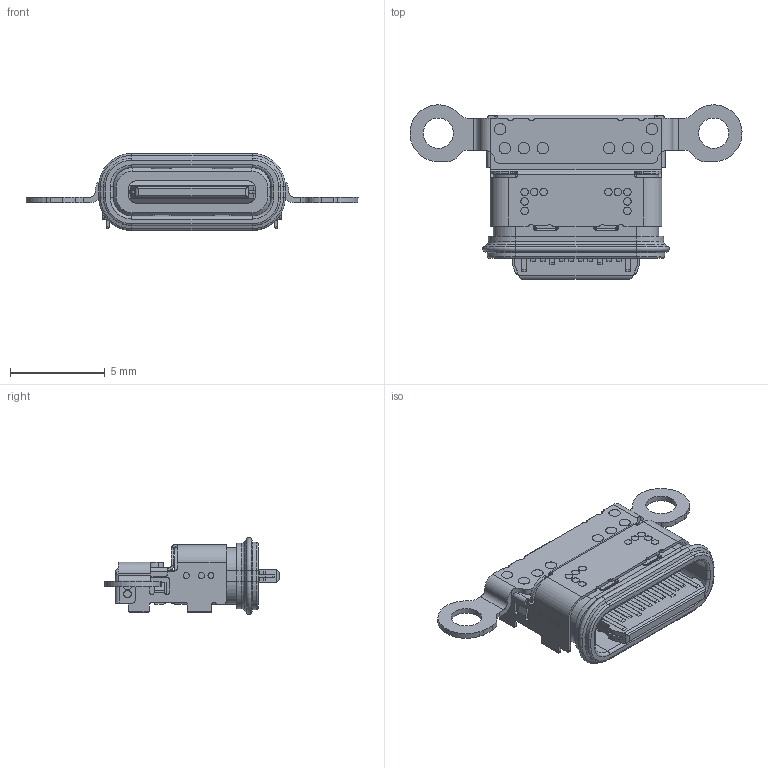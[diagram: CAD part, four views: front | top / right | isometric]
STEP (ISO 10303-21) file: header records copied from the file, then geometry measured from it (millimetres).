
FILE_DESCRIPTION(('Creo Elements/Direct Modeling STEP Export'),'2;1');
FILE_NAME('ZB48093-24SBAP-A.stp','2024-09-11T18:02:19',(''),(''),'PTC Creo Elements/Direct Modeling STEP processor for AP214 (Solid Model)','PTC Creo Elements/Direct Modeling 19.0 09-May-2014 (C) Parametric Technology GmbH','');
FILE_SCHEMA(('AUTOMOTIVE_DESIGN { 1 0 10303 214 1 1 1 1 }'));
Length unit declared in the file: millimetre
Products named in the file (2): TYPE_C24P防水-3D
Assembly tree (1 placements, depth 2):
  TYPE_C24P防水-3D
    TYPE_C24P防水-3D
Bounding box: 17.51 x 9.2 x 4.07 mm (x, y, z)
Volume: 120 mm3; surface area: 689 mm2
Topology: 1 solids, 4 shells, 1448 faces, 3973 edges, 2557 vertices
Faces by surface type: plane 870, cylinder 439, torus 64, cone 32, bspline 22, sphere 18, extrusion 3
Entity records: 49177 total; most frequent: CARTESIAN_POINT 9397, ORIENTED_EDGE 7950, DIRECTION 7314, EDGE_CURVE 3971, VECTOR 2676, LINE 2673, VERTEX_POINT 2557, AXIS2_PLACEMENT_3D 2319
